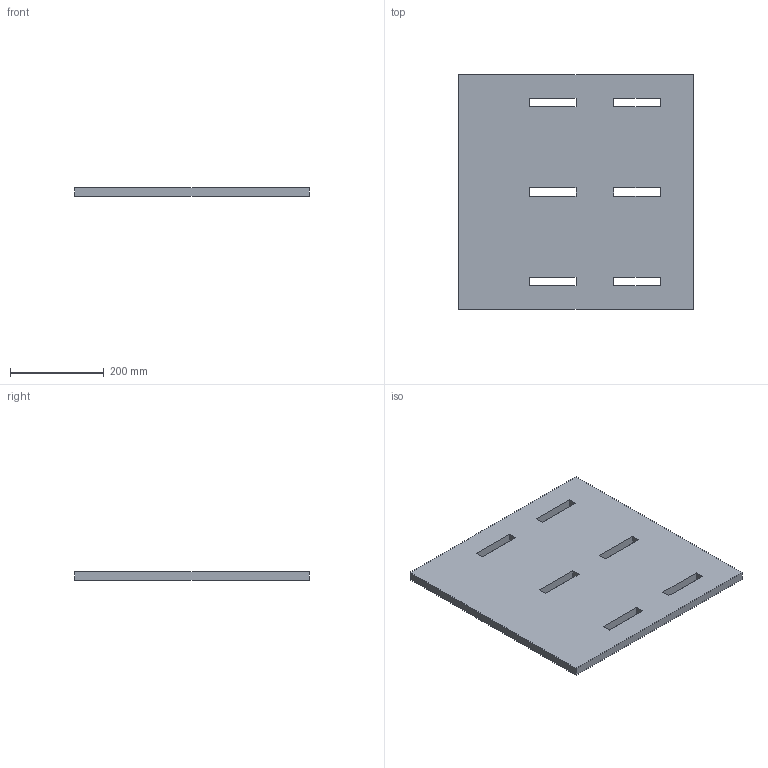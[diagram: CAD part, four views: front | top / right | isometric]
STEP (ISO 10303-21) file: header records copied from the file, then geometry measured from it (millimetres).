
FILE_DESCRIPTION(('Open CASCADE Model'),'2;1');
FILE_NAME('Open CASCADE Shape Model','2026-09-24T15:34:07',('Author'),( 'Open CASCADE'),'Open CASCADE STEP processor 7.9','Open CASCADE 7.9' ,'Unknown');
FILE_SCHEMA(('AUTOMOTIVE_DESIGN { 1 0 10303 214 1 1 1 1 }'));
Length unit declared in the file: millimetre
Products named in the file (1): Open CASCADE STEP translator 7.9 3
Bounding box: 500 x 500 x 18 mm (x, y, z)
Volume: 4303440 mm3; surface area: 539691.2 mm2
Topology: 1 solids, 1 shells, 30 faces, 84 edges, 56 vertices
Faces by surface type: plane 30
Entity records: 1978 total; most frequent: CARTESIAN_POINT 435, DIRECTION 218, ORIENTED_EDGE 168, PCURVE 168, DEFINITIONAL_REPRESENTATION 168, LINE 156, VECTOR 156, B_SPLINE_CURVE_WITH_KNOTS 96
